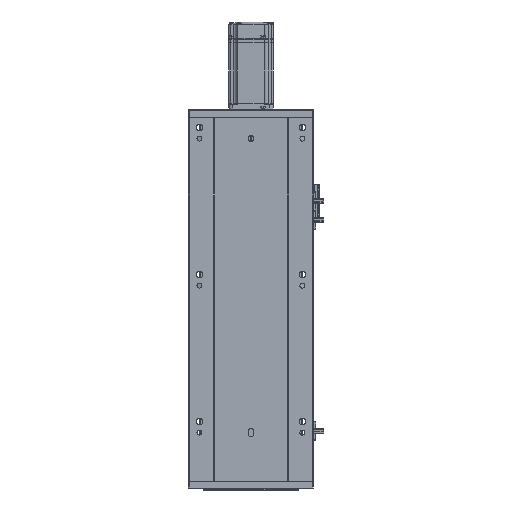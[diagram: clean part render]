
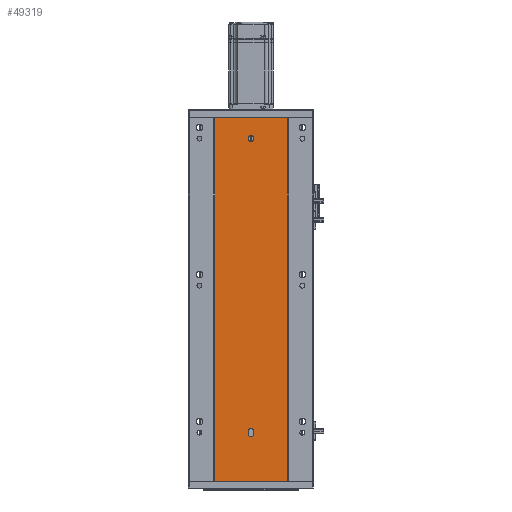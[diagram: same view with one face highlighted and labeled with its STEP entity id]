
A CAD part, front view. The second image highlights one B-rep face of the part: STEP entity #49319.
In plain terms, the highlighted planar face has unit normal (0, -1, 0).
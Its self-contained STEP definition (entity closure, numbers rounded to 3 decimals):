
#493 = VERTEX_POINT ( 'NONE', #51316 ) ;
#578 = CARTESIAN_POINT ( 'NONE',  ( 86.97, 79.476, 329.333 ) ) ;
#1225 = LINE ( 'NONE', #61581, #57355 ) ;
#2738 = CARTESIAN_POINT ( 'NONE',  ( 185.97, 79.476, 0. ) ) ;
#2958 = CARTESIAN_POINT ( 'NONE',  ( 0., 79.476, 494. ) ) ;
#3155 = CARTESIAN_POINT ( 'NONE',  ( 140.47, 79.476, 64.5 ) ) ;
#3273 = DIRECTION ( 'NONE',  ( 0., 0., -1. ) ) ;
#4521 = ORIENTED_EDGE ( 'NONE', *, *, #35035, .F. ) ;
#4889 = CARTESIAN_POINT ( 'NONE',  ( 136.47, 79.476, 67.5 ) ) ;
#5607 = CARTESIAN_POINT ( 'NONE',  ( 136.47, 79.476, 60.5 ) ) ;
#6759 = AXIS2_PLACEMENT_3D ( 'NONE', #4889, #24217, #63788 ) ;
#7230 = VERTEX_POINT ( 'NONE', #35119 ) ;
#7615 = DIRECTION ( 'NONE',  ( 1., 0., 0. ) ) ;
#8477 = CIRCLE ( 'NONE', #41242, 4. ) ;
#8543 = CIRCLE ( 'NONE', #32109, 4. ) ;
#9108 = EDGE_CURVE ( 'NONE', #56286, #36651, #14216, .T. ) ;
#10066 = CARTESIAN_POINT ( 'NONE',  ( 86.97, 79.476, 494. ) ) ;
#10175 = CARTESIAN_POINT ( 'NONE',  ( 136.47, 79.476, 466. ) ) ;
#10292 = CARTESIAN_POINT ( 'NONE',  ( 86.97, 79.476, 164.667 ) ) ;
#10329 = EDGE_CURVE ( 'NONE', #36651, #61141, #24834, .T. ) ;
#10794 = VECTOR ( 'NONE', #33138, 1000. ) ;
#11632 = CARTESIAN_POINT ( 'NONE',  ( 86.97, 79.476, 494. ) ) ;
#12505 = EDGE_CURVE ( 'NONE', #493, #62396, #53148, .T. ) ;
#13674 = DIRECTION ( 'NONE',  ( 0., -1., 0. ) ) ;
#14216 = CIRCLE ( 'NONE', #18758, 4. ) ;
#14317 = VECTOR ( 'NONE', #28087, 1000. ) ;
#14919 = CARTESIAN_POINT ( 'NONE',  ( 140.47, 79.476, 67.5 ) ) ;
#15114 = CARTESIAN_POINT ( 'NONE',  ( 185.97, 79.476, 0. ) ) ;
#15217 = ORIENTED_EDGE ( 'NONE', *, *, #10329, .F. ) ;
#15568 = DIRECTION ( 'NONE',  ( 0., 0., -1. ) ) ;
#15803 = DIRECTION ( 'NONE',  ( 0., 0., 1. ) ) ;
#17246 = CARTESIAN_POINT ( 'NONE',  ( 136.47, 79.476, 466. ) ) ;
#18289 = AXIS2_PLACEMENT_3D ( 'NONE', #19243, #29151, #34076 ) ;
#18409 = CARTESIAN_POINT ( 'NONE',  ( 136.47, 79.476, 64.5 ) ) ;
#18758 = AXIS2_PLACEMENT_3D ( 'NONE', #54011, #33969, #53792 ) ;
#19174 = ORIENTED_EDGE ( 'NONE', *, *, #34694, .F. ) ;
#19243 = CARTESIAN_POINT ( 'NONE',  ( 0., 79.476, 494. ) ) ;
#21544 = ORIENTED_EDGE ( 'NONE', *, *, #45197, .F. ) ;
#21769 = VERTEX_POINT ( 'NONE', #15114 ) ;
#23940 = B_SPLINE_CURVE_WITH_KNOTS ( 'NONE', 3,
 ( #10066, #578, #10292, #44471 ),
 .UNSPECIFIED., .F., .F.,
 ( 4, 4 ),
 ( 0., 1. ),
 .UNSPECIFIED. ) ;
#24217 = DIRECTION ( 'NONE',  ( 0., -1., 0. ) ) ;
#24750 = FACE_OUTER_BOUND ( 'NONE', #26015, .T. ) ;
#24834 = LINE ( 'NONE', #25683, #30290 ) ;
#25683 = CARTESIAN_POINT ( 'NONE',  ( 140.47, 79.476, 67.5 ) ) ;
#26015 = EDGE_LOOP ( 'NONE', ( #63608, #21544, #51579, #28251 ) ) ;
#26081 = VERTEX_POINT ( 'NONE', #48681 ) ;
#27147 = CIRCLE ( 'NONE', #6759, 4. ) ;
#27573 = ORIENTED_EDGE ( 'NONE', *, *, #42888, .F. ) ;
#27644 = CARTESIAN_POINT ( 'NONE',  ( 185.97, 79.476, 329.333 ) ) ;
#27831 = FACE_BOUND ( 'NONE', #53656, .T. ) ;
#28087 = DIRECTION ( 'NONE',  ( 1., 0., 0. ) ) ;
#28251 = ORIENTED_EDGE ( 'NONE', *, *, #50467, .T. ) ;
#29151 = DIRECTION ( 'NONE',  ( 0., 1., 0. ) ) ;
#29969 = DIRECTION ( 'NONE',  ( 0., -1., 0. ) ) ;
#30290 = VECTOR ( 'NONE', #15803, 1000. ) ;
#32109 = AXIS2_PLACEMENT_3D ( 'NONE', #10175, #29969, #15568 ) ;
#32687 = DIRECTION ( 'NONE',  ( 0., -1., 0. ) ) ;
#32701 = ORIENTED_EDGE ( 'NONE', *, *, #9108, .F. ) ;
#33138 = DIRECTION ( 'NONE',  ( 0., 0., -1. ) ) ;
#33969 = DIRECTION ( 'NONE',  ( 0., -1., 0. ) ) ;
#34076 = DIRECTION ( 'NONE',  ( 0., 0., 1. ) ) ;
#34673 = CIRCLE ( 'NONE', #36949, 4. ) ;
#34694 = EDGE_CURVE ( 'NONE', #7230, #26081, #8543, .T. ) ;
#35035 = EDGE_CURVE ( 'NONE', #26081, #7230, #8477, .T. ) ;
#35119 = CARTESIAN_POINT ( 'NONE',  ( 136.47, 79.476, 470. ) ) ;
#36651 = VERTEX_POINT ( 'NONE', #3155 ) ;
#36949 = AXIS2_PLACEMENT_3D ( 'NONE', #18409, #13674, #37964 ) ;
#37115 = CARTESIAN_POINT ( 'NONE',  ( 185.97, 79.476, 494. ) ) ;
#37537 = CARTESIAN_POINT ( 'NONE',  ( 132.47, 79.476, 64.5 ) ) ;
#37964 = DIRECTION ( 'NONE',  ( 0., 0., -1. ) ) ;
#38580 = PLANE ( 'NONE',  #18289 ) ;
#38761 = B_SPLINE_CURVE_WITH_KNOTS ( 'NONE', 3,
 ( #37115, #27644, #62093, #2738 ),
 .UNSPECIFIED., .F., .F.,
 ( 4, 4 ),
 ( 0., 1. ),
 .UNSPECIFIED. ) ;
#40737 = VERTEX_POINT ( 'NONE', #49674 ) ;
#41242 = AXIS2_PLACEMENT_3D ( 'NONE', #17246, #32687, #3273 ) ;
#42745 = LINE ( 'NONE', #2958, #14317 ) ;
#42858 = ORIENTED_EDGE ( 'NONE', *, *, #12505, .F. ) ;
#42888 = EDGE_CURVE ( 'NONE', #62396, #56286, #34673, .T. ) ;
#44471 = CARTESIAN_POINT ( 'NONE',  ( 86.97, 79.476, 0. ) ) ;
#44494 = VERTEX_POINT ( 'NONE', #11632 ) ;
#45197 = EDGE_CURVE ( 'NONE', #40737, #21769, #38761, .T. ) ;
#46777 = EDGE_LOOP ( 'NONE', ( #4521, #19174 ) ) ;
#48681 = CARTESIAN_POINT ( 'NONE',  ( 136.47, 79.476, 462. ) ) ;
#49319 = ADVANCED_FACE ( 'NONE', ( #27831, #49406, #24750 ), #38580, .F. ) ;
#49406 = FACE_BOUND ( 'NONE', #46777, .T. ) ;
#49674 = CARTESIAN_POINT ( 'NONE',  ( 185.97, 79.476, 494. ) ) ;
#50467 = EDGE_CURVE ( 'NONE', #44494, #54523, #23940, .T. ) ;
#51316 = CARTESIAN_POINT ( 'NONE',  ( 132.47, 79.476, 67.5 ) ) ;
#51579 = ORIENTED_EDGE ( 'NONE', *, *, #55033, .F. ) ;
#52924 = CARTESIAN_POINT ( 'NONE',  ( 86.97, 79.476, 0. ) ) ;
#53148 = LINE ( 'NONE', #57446, #10794 ) ;
#53288 = EDGE_CURVE ( 'NONE', #54523, #21769, #1225, .T. ) ;
#53656 = EDGE_LOOP ( 'NONE', ( #27573, #42858, #63606, #15217, #32701 ) ) ;
#53792 = DIRECTION ( 'NONE',  ( 0., 0., -1. ) ) ;
#54011 = CARTESIAN_POINT ( 'NONE',  ( 136.47, 79.476, 64.5 ) ) ;
#54523 = VERTEX_POINT ( 'NONE', #52924 ) ;
#55033 = EDGE_CURVE ( 'NONE', #44494, #40737, #42745, .T. ) ;
#56286 = VERTEX_POINT ( 'NONE', #5607 ) ;
#56759 = EDGE_CURVE ( 'NONE', #61141, #493, #27147, .T. ) ;
#57355 = VECTOR ( 'NONE', #7615, 1000. ) ;
#57446 = CARTESIAN_POINT ( 'NONE',  ( 132.47, 79.476, 67.5 ) ) ;
#61141 = VERTEX_POINT ( 'NONE', #14919 ) ;
#61581 = CARTESIAN_POINT ( 'NONE',  ( 0., 79.476, 0. ) ) ;
#62093 = CARTESIAN_POINT ( 'NONE',  ( 185.97, 79.476, 164.667 ) ) ;
#62396 = VERTEX_POINT ( 'NONE', #37537 ) ;
#63606 = ORIENTED_EDGE ( 'NONE', *, *, #56759, .F. ) ;
#63608 = ORIENTED_EDGE ( 'NONE', *, *, #53288, .T. ) ;
#63788 = DIRECTION ( 'NONE',  ( 0., 0., -1. ) ) ;
